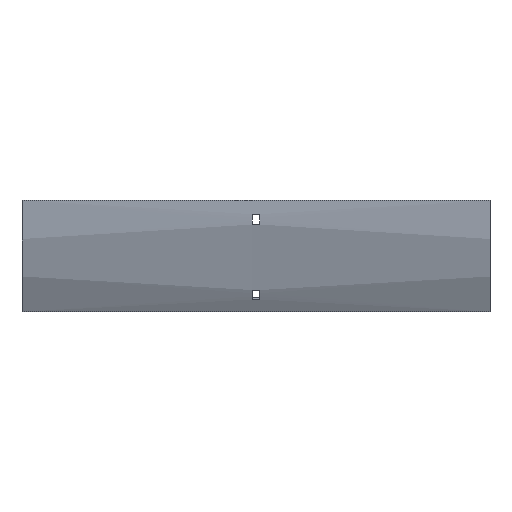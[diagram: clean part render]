
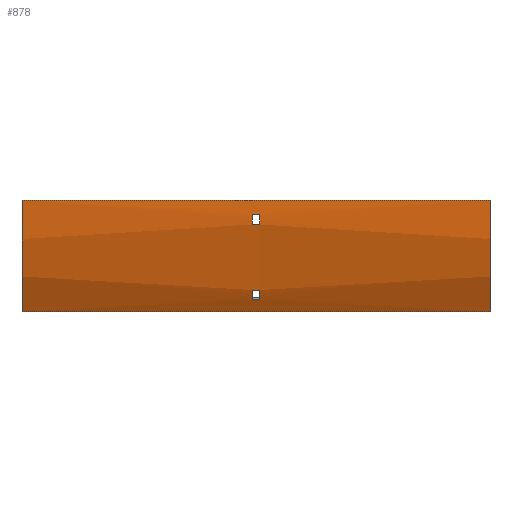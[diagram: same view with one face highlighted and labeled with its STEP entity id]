
A CAD part, front view. The second image highlights one B-rep face of the part: STEP entity #878.
In plain terms, the highlighted cylindrical face has radius 192.5 mm (diameter 385 mm), a partial arc.
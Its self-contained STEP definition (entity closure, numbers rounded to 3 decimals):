
#61 = EDGE_CURVE ( 'NONE', #1059, #778, #1055, .T. ) ;
#72 = EDGE_CURVE ( 'NONE', #808, #952, #752, .T. ) ;
#74 = CARTESIAN_POINT ( 'NONE',  ( 202., -92.126, -12. ) ) ;
#106 = DIRECTION ( 'NONE',  ( 0., 0., -1. ) ) ;
#107 = CIRCLE ( 'NONE', #1149, 192.5 ) ;
#139 = CARTESIAN_POINT ( 'NONE',  ( 3.25, -76.215, -77.489 ) ) ;
#156 = EDGE_CURVE ( 'NONE', #698, #858, #385, .T. ) ;
#171 = VERTEX_POINT ( 'NONE', #524 ) ;
#187 = CARTESIAN_POINT ( 'NONE',  ( 202., -91.351, -21. ) ) ;
#204 = DIRECTION ( 'NONE',  ( -1., 0., 0. ) ) ;
#245 = CARTESIAN_POINT ( 'NONE',  ( -202., -92.5, 0. ) ) ;
#260 = DIRECTION ( 'NONE',  ( 1., 0., 0. ) ) ;
#288 = VERTEX_POINT ( 'NONE', #651 ) ;
#319 = CARTESIAN_POINT ( 'NONE',  ( 202., 100., 0. ) ) ;
#328 = LINE ( 'NONE', #187, #368 ) ;
#329 = ORIENTED_EDGE ( 'NONE', *, *, #996, .T. ) ;
#336 = ORIENTED_EDGE ( 'NONE', *, *, #461, .T. ) ;
#342 = CARTESIAN_POINT ( 'NONE',  ( 3.25, -72.386, -85.671 ) ) ;
#357 = ORIENTED_EDGE ( 'NONE', *, *, #72, .T. ) ;
#359 = CARTESIAN_POINT ( 'NONE',  ( 3.25, 100., 0. ) ) ;
#368 = VECTOR ( 'NONE', #1618, 1000. ) ;
#379 = DIRECTION ( 'NONE',  ( 0., 0., 1. ) ) ;
#385 = LINE ( 'NONE', #1260, #594 ) ;
#400 = AXIS2_PLACEMENT_3D ( 'NONE', #868, #631, #379 ) ;
#461 = EDGE_CURVE ( 'NONE', #952, #288, #742, .T. ) ;
#466 = FACE_BOUND ( 'NONE', #1577, .T. ) ;
#481 = DIRECTION ( 'NONE',  ( -1., 0., 0. ) ) ;
#513 = DIRECTION ( 'NONE',  ( 1., 0., 0. ) ) ;
#514 = ORIENTED_EDGE ( 'NONE', *, *, #1030, .T. ) ;
#516 = EDGE_CURVE ( 'NONE', #850, #698, #904, .T. ) ;
#517 = CARTESIAN_POINT ( 'NONE',  ( -3.25, -92.126, -12. ) ) ;
#521 = AXIS2_PLACEMENT_3D ( 'NONE', #577, #1097, #1204 ) ;
#524 = CARTESIAN_POINT ( 'NONE',  ( 3.25, -91.351, -21. ) ) ;
#549 = AXIS2_PLACEMENT_3D ( 'NONE', #1041, #902, #1161 ) ;
#554 = ORIENTED_EDGE ( 'NONE', *, *, #565, .T. ) ;
#565 = EDGE_CURVE ( 'NONE', #971, #1368, #107, .T. ) ;
#577 = CARTESIAN_POINT ( 'NONE',  ( -3.25, 100., 0. ) ) ;
#589 = EDGE_LOOP ( 'NONE', ( #554, #1271, #1287, #514 ) ) ;
#594 = VECTOR ( 'NONE', #616, 1000. ) ;
#602 = DIRECTION ( 'NONE',  ( 1., 0., 0. ) ) ;
#607 = CARTESIAN_POINT ( 'NONE',  ( 202., -66.71, -96.25 ) ) ;
#616 = DIRECTION ( 'NONE',  ( -1., 0., 0. ) ) ;
#631 = DIRECTION ( 'NONE',  ( -1., 0., 0. ) ) ;
#651 = CARTESIAN_POINT ( 'NONE',  ( 3.25, -92.126, -12. ) ) ;
#698 = VERTEX_POINT ( 'NONE', #139 ) ;
#700 = AXIS2_PLACEMENT_3D ( 'NONE', #761, #1285, #901 ) ;
#707 = LINE ( 'NONE', #607, #1471 ) ;
#722 = FACE_OUTER_BOUND ( 'NONE', #589, .T. ) ;
#742 = LINE ( 'NONE', #74, #1112 ) ;
#752 = CIRCLE ( 'NONE', #400, 192.5 ) ;
#761 = CARTESIAN_POINT ( 'NONE',  ( 202., 100., 0. ) ) ;
#777 = CARTESIAN_POINT ( 'NONE',  ( -202., 100., 0. ) ) ;
#778 = VERTEX_POINT ( 'NONE', #1120 ) ;
#791 = EDGE_CURVE ( 'NONE', #778, #1368, #707, .T. ) ;
#808 = VERTEX_POINT ( 'NONE', #959 ) ;
#810 = DIRECTION ( 'NONE',  ( -1., 0., 0. ) ) ;
#850 = VERTEX_POINT ( 'NONE', #342 ) ;
#857 = ORIENTED_EDGE ( 'NONE', *, *, #1586, .F. ) ;
#858 = VERTEX_POINT ( 'NONE', #967 ) ;
#868 = CARTESIAN_POINT ( 'NONE',  ( -3.25, 100., 0. ) ) ;
#871 = EDGE_CURVE ( 'NONE', #171, #808, #328, .T. ) ;
#874 = DIRECTION ( 'NONE',  ( 1., 0., 0. ) ) ;
#878 = ADVANCED_FACE ( 'NONE', ( #722, #466, #1366 ), #1488, .T. ) ;
#890 = CIRCLE ( 'NONE', #1296, 192.5 ) ;
#901 = DIRECTION ( 'NONE',  ( 0., 0., -1. ) ) ;
#902 = DIRECTION ( 'NONE',  ( -1., 0., 0. ) ) ;
#904 = CIRCLE ( 'NONE', #549, 192.5 ) ;
#941 = CARTESIAN_POINT ( 'NONE',  ( 202., -92.5, 0. ) ) ;
#952 = VERTEX_POINT ( 'NONE', #517 ) ;
#959 = CARTESIAN_POINT ( 'NONE',  ( -3.25, -91.351, -21. ) ) ;
#967 = CARTESIAN_POINT ( 'NONE',  ( -3.25, -76.215, -77.489 ) ) ;
#971 = VERTEX_POINT ( 'NONE', #245 ) ;
#982 = ORIENTED_EDGE ( 'NONE', *, *, #871, .T. ) ;
#996 = EDGE_CURVE ( 'NONE', #288, #171, #890, .T. ) ;
#997 = VERTEX_POINT ( 'NONE', #1670 ) ;
#1006 = ORIENTED_EDGE ( 'NONE', *, *, #156, .F. ) ;
#1030 = EDGE_CURVE ( 'NONE', #1059, #971, #1319, .T. ) ;
#1041 = CARTESIAN_POINT ( 'NONE',  ( 3.25, 100., 0. ) ) ;
#1055 = CIRCLE ( 'NONE', #700, 192.5 ) ;
#1059 = VERTEX_POINT ( 'NONE', #1081 ) ;
#1081 = CARTESIAN_POINT ( 'NONE',  ( 202., -92.5, 0. ) ) ;
#1097 = DIRECTION ( 'NONE',  ( 1., 0., 0. ) ) ;
#1112 = VECTOR ( 'NONE', #602, 1000. ) ;
#1120 = CARTESIAN_POINT ( 'NONE',  ( 202., -66.71, -96.25 ) ) ;
#1149 = AXIS2_PLACEMENT_3D ( 'NONE', #777, #513, #106 ) ;
#1161 = DIRECTION ( 'NONE',  ( 0., 0., 1. ) ) ;
#1184 = LINE ( 'NONE', #1555, #1280 ) ;
#1204 = DIRECTION ( 'NONE',  ( 0., 0., -1. ) ) ;
#1230 = CIRCLE ( 'NONE', #521, 192.5 ) ;
#1260 = CARTESIAN_POINT ( 'NONE',  ( 202., -76.215, -77.489 ) ) ;
#1271 = ORIENTED_EDGE ( 'NONE', *, *, #791, .F. ) ;
#1280 = VECTOR ( 'NONE', #260, 1000. ) ;
#1285 = DIRECTION ( 'NONE',  ( 1., 0., 0. ) ) ;
#1287 = ORIENTED_EDGE ( 'NONE', *, *, #61, .F. ) ;
#1296 = AXIS2_PLACEMENT_3D ( 'NONE', #359, #874, #1543 ) ;
#1302 = ORIENTED_EDGE ( 'NONE', *, *, #516, .F. ) ;
#1319 = LINE ( 'NONE', #941, #1429 ) ;
#1341 = EDGE_LOOP ( 'NONE', ( #857, #1006, #1302, #1612 ) ) ;
#1358 = DIRECTION ( 'NONE',  ( 0., 0., 1. ) ) ;
#1366 = FACE_BOUND ( 'NONE', #1341, .T. ) ;
#1368 = VERTEX_POINT ( 'NONE', #1412 ) ;
#1412 = CARTESIAN_POINT ( 'NONE',  ( -202., -66.71, -96.25 ) ) ;
#1429 = VECTOR ( 'NONE', #810, 1000. ) ;
#1471 = VECTOR ( 'NONE', #481, 1000. ) ;
#1482 = EDGE_CURVE ( 'NONE', #997, #850, #1184, .T. ) ;
#1488 = CYLINDRICAL_SURFACE ( 'NONE', #1694, 192.5 ) ;
#1543 = DIRECTION ( 'NONE',  ( 0., 0., -1. ) ) ;
#1555 = CARTESIAN_POINT ( 'NONE',  ( 202., -72.386, -85.671 ) ) ;
#1577 = EDGE_LOOP ( 'NONE', ( #982, #357, #336, #329 ) ) ;
#1586 = EDGE_CURVE ( 'NONE', #858, #997, #1230, .T. ) ;
#1612 = ORIENTED_EDGE ( 'NONE', *, *, #1482, .F. ) ;
#1618 = DIRECTION ( 'NONE',  ( -1., 0., 0. ) ) ;
#1670 = CARTESIAN_POINT ( 'NONE',  ( -3.25, -72.386, -85.671 ) ) ;
#1694 = AXIS2_PLACEMENT_3D ( 'NONE', #319, #204, #1358 ) ;
